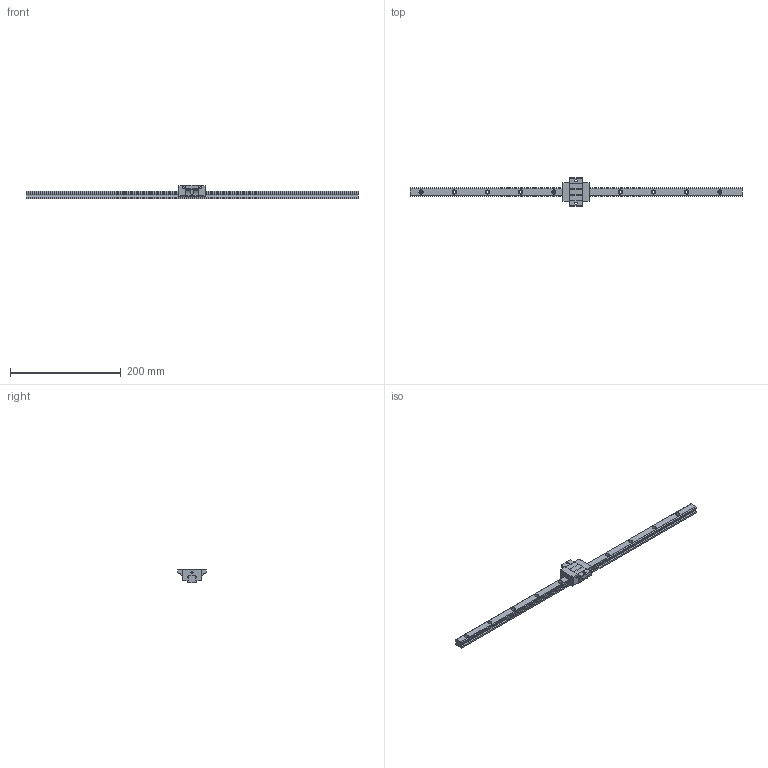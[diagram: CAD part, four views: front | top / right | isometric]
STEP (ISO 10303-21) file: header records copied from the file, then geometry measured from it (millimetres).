
FILE_DESCRIPTION (( 'STEP AP203' ), '1' );
FILE_NAME ('TRS15FS-ZN.STEP', '2024-05-22T08:29:55', ( '' ), ( '' ), 'SwSTEP 2.0', 'SolidWorks 2022', '' );
FILE_SCHEMA (( 'CONFIG_CONTROL_DESIGN' ));
Length unit declared in the file: millimetre
Products named in the file (1): TRS15FS-ZN
Bounding box: 600 x 52 x 24 mm (x, y, z)
Volume: 130120.6 mm3; surface area: 45826.2 mm2
Topology: 2 solids, 2 shells, 222 faces, 590 edges, 384 vertices
Faces by surface type: cylinder 116, plane 102, sphere 4
Entity records: 7291 total; most frequent: CARTESIAN_POINT 1503, DIRECTION 1226, ORIENTED_EDGE 1172, EDGE_CURVE 586, AXIS2_PLACEMENT_3D 437, VERTEX_POINT 384, LINE 352, VECTOR 352
